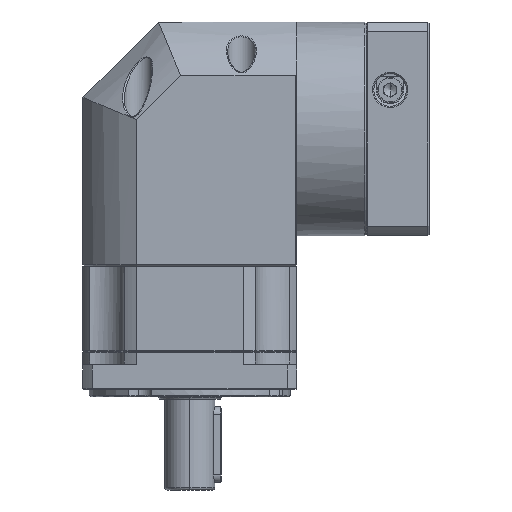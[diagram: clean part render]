
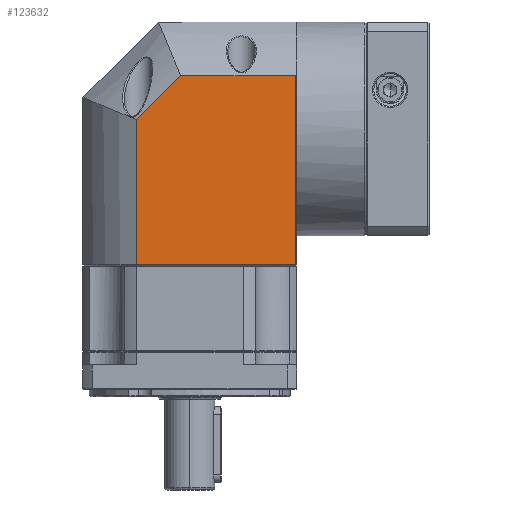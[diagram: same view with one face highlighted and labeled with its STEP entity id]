
A CAD part, front view. The second image highlights one B-rep face of the part: STEP entity #123632.
In plain terms, the highlighted planar face has unit normal (0, -1, 0).
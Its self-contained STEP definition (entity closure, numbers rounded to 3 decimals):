
#2920 = LINE ( 'NONE', #72237, #102459 ) ;
#3286 = CARTESIAN_POINT ( 'NONE',  ( -7.372, 105.885, 51.36 ) ) ;
#4098 = CARTESIAN_POINT ( 'NONE',  ( 55.841, 105.885, 30.073 ) ) ;
#12211 = VERTEX_POINT ( 'NONE', #172803 ) ;
#13773 = ORIENTED_EDGE ( 'NONE', *, *, #123452, .F. ) ;
#18102 = DIRECTION ( 'NONE',  ( 0., 0., 1. ) ) ;
#20073 = ORIENTED_EDGE ( 'NONE', *, *, #134846, .F. ) ;
#20569 = LINE ( 'NONE', #37009, #124343 ) ;
#23560 = DIRECTION ( 'NONE',  ( 0., 1., 0. ) ) ;
#34986 = EDGE_CURVE ( 'NONE', #170466, #59034, #58450, .T. ) ;
#37009 = CARTESIAN_POINT ( 'NONE',  ( 56.341, 105.885, 30.073 ) ) ;
#52453 = EDGE_CURVE ( 'NONE', #12211, #148529, #140637, .T. ) ;
#56089 = VECTOR ( 'NONE', #70407, 1000. ) ;
#57185 = CARTESIAN_POINT ( 'NONE',  ( 56.341, 105.885, -45.14 ) ) ;
#57753 = DIRECTION ( 'NONE',  ( 1., 0., 0. ) ) ;
#58450 = LINE ( 'NONE', #57185, #157745 ) ;
#59034 = VERTEX_POINT ( 'NONE', #155155 ) ;
#64341 = FACE_OUTER_BOUND ( 'NONE', #151438, .T. ) ;
#69474 = EDGE_CURVE ( 'NONE', #170466, #12211, #105605, .T. ) ;
#70407 = DIRECTION ( 'NONE',  ( 0.707, 0., 0.707 ) ) ;
#72063 = ORIENTED_EDGE ( 'NONE', *, *, #52453, .F. ) ;
#72237 = CARTESIAN_POINT ( 'NONE',  ( 55.841, 105.885, 51.36 ) ) ;
#85792 = DIRECTION ( 'NONE',  ( 0., 0., -1. ) ) ;
#92664 = CARTESIAN_POINT ( 'NONE',  ( 10.158, 105.885, 30.073 ) ) ;
#95397 = CARTESIAN_POINT ( 'NONE',  ( -7.372, 105.885, -45.14 ) ) ;
#102459 = VECTOR ( 'NONE', #85792, 1000. ) ;
#104646 = CARTESIAN_POINT ( 'NONE',  ( 56.341, 105.885, 51.36 ) ) ;
#105605 = LINE ( 'NONE', #3286, #173191 ) ;
#117696 = PLANE ( 'NONE',  #120074 ) ;
#118268 = DIRECTION ( 'NONE',  ( -1., 0., 0. ) ) ;
#120074 = AXIS2_PLACEMENT_3D ( 'NONE', #104646, #23560, #118268 ) ;
#123452 = EDGE_CURVE ( 'NONE', #150055, #59034, #2920, .T. ) ;
#123632 = ADVANCED_FACE ( 'NONE', ( #64341 ), #117696, .F. ) ;
#124343 = VECTOR ( 'NONE', #131500, 1000. ) ;
#126360 = ORIENTED_EDGE ( 'NONE', *, *, #69474, .F. ) ;
#131500 = DIRECTION ( 'NONE',  ( 1., 0., 0. ) ) ;
#134846 = EDGE_CURVE ( 'NONE', #148529, #150055, #20569, .T. ) ;
#140637 = LINE ( 'NONE', #152457, #56089 ) ;
#148529 = VERTEX_POINT ( 'NONE', #92664 ) ;
#150055 = VERTEX_POINT ( 'NONE', #4098 ) ;
#150740 = ORIENTED_EDGE ( 'NONE', *, *, #34986, .T. ) ;
#151438 = EDGE_LOOP ( 'NONE', ( #150740, #13773, #20073, #72063, #126360 ) ) ;
#152457 = CARTESIAN_POINT ( 'NONE',  ( -7.372, 105.885, 12.543 ) ) ;
#155155 = CARTESIAN_POINT ( 'NONE',  ( 55.841, 105.885, -45.14 ) ) ;
#157745 = VECTOR ( 'NONE', #57753, 1000. ) ;
#170466 = VERTEX_POINT ( 'NONE', #95397 ) ;
#172803 = CARTESIAN_POINT ( 'NONE',  ( -7.372, 105.885, 12.543 ) ) ;
#173191 = VECTOR ( 'NONE', #18102, 1000. ) ;
